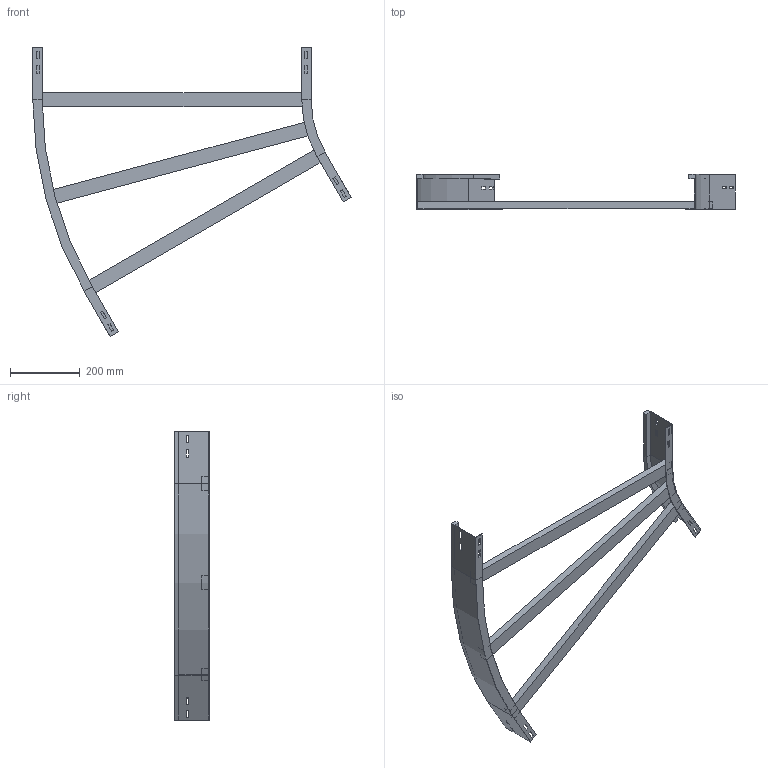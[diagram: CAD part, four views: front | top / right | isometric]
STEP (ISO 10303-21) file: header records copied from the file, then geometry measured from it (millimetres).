
FILE_DESCRIPTION (( 'STEP AP214' ), '1' );
FILE_NAME ('A2_12B3D800.step', '2025-02-21T15:07:29', ( '' ), ( '' ), 'SwSTEP 2.0', 'SolidWorks 2023', '' );
FILE_SCHEMA (( 'AUTOMOTIVE_DESIGN' ));
Length unit declared in the file: millimetre
Products named in the file (4): A2_12B3D800; A2_LONGH.ESTERNO 30°_H100_R300+800; TRAVERSINO_800; A2_LONGH.INTERNO 30°_H100_R300
Assembly tree (5 placements, depth 2):
  A2_12B3D800
    A2_LONGH.INTERNO 30°_H100_R300
    A2_LONGH.ESTERNO 30°_H100_R300+800
    TRAVERSINO_800  x3
Bounding box: 915.19 x 100 x 829.9 mm (x, y, z)
Volume: 2518554.9 mm3; surface area: 673752.9 mm2
Topology: 5 solids, 5 shells, 134 faces, 340 edges, 216 vertices
Faces by surface type: plane 126, cylinder 8
Entity records: 3821 total; most frequent: CARTESIAN_POINT 646, ORIENTED_EDGE 632, DIRECTION 592, EDGE_CURVE 316, LINE 300, VECTOR 300, VERTEX_POINT 200, EDGE_LOOP 154
